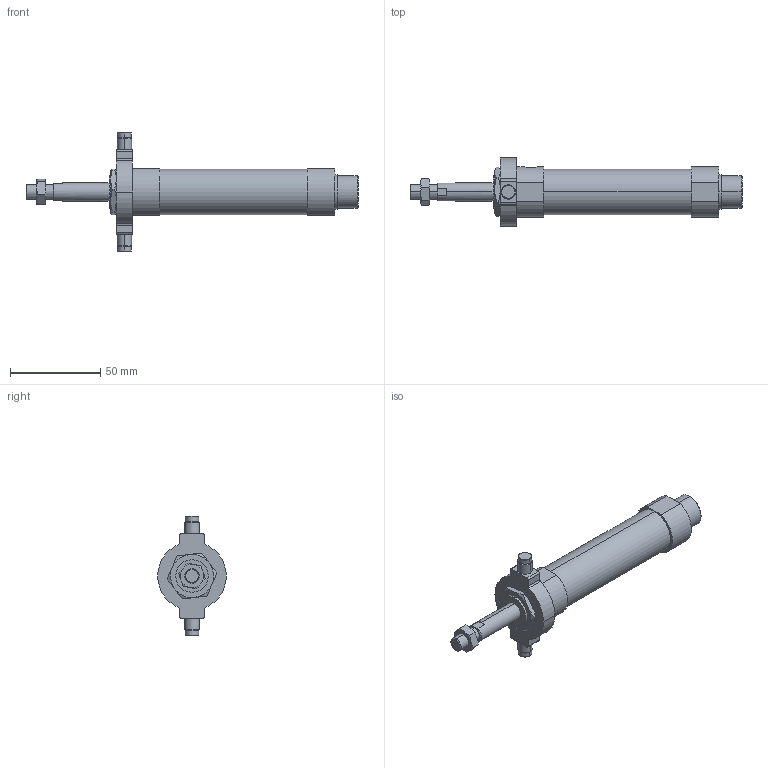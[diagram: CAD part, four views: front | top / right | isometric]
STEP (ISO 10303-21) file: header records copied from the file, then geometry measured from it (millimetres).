
FILE_DESCRIPTION (( 'STEP AP203' ), '1' );
FILE_NAME ('J#0-20-25-T.STEP', '2016-03-08T06:26:58', ( '' ), ( '' ), 'SwSTEP 2.0', 'SolidWorks 2014', '' );
FILE_SCHEMA (( 'CONFIG_CONTROL_DESIGN' ));
Length unit declared in the file: millimetre
Products named in the file (5): J#0-20-25; J#2-20-T; J#0-20-25-T
Assembly tree (4 placements, depth 2):
  J#0-20-25-T
    J#0-20-25
    (unnamed)
    (unnamed)
    J#2-20-T
Bounding box: 184 x 38 x 66 mm (x, y, z)
Volume: 78602 mm3; surface area: 19349.6 mm2
Topology: 4 solids, 4 shells, 128 faces, 285 edges, 176 vertices
Faces by surface type: cylinder 45, plane 45, torus 24, cone 14
Entity records: 4356 total; most frequent: CARTESIAN_POINT 986, DIRECTION 627, ORIENTED_EDGE 570, EDGE_CURVE 285, AXIS2_PLACEMENT_3D 261, VERTEX_POINT 176, EDGE_LOOP 145, ADVANCED_FACE 128
